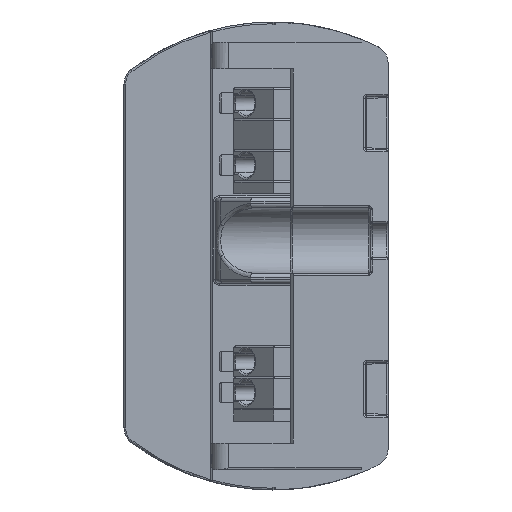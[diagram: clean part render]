
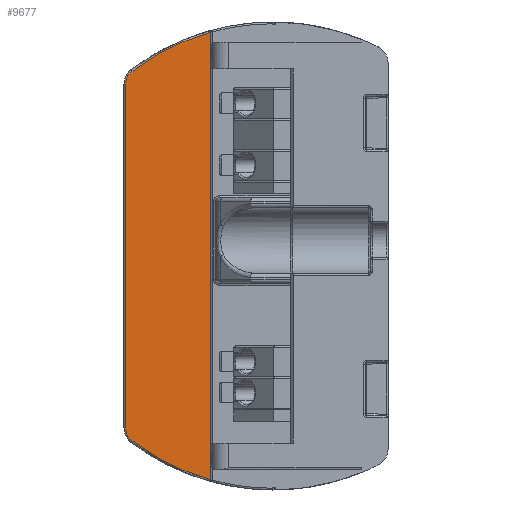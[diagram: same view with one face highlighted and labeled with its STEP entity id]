
A CAD part, left-side view. The second image highlights one B-rep face of the part: STEP entity #9677.
In plain terms, the highlighted planar face has unit normal (-1, 0, 0).
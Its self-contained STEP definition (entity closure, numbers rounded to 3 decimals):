
#1967 = ORIENTED_EDGE ( 'NONE', *, *, #9484, .T. ) ;
#1968 = ORIENTED_EDGE ( 'NONE', *, *, #9485, .T. ) ;
#1970 = ORIENTED_EDGE ( 'NONE', *, *, #9486, .T. ) ;
#1972 = ORIENTED_EDGE ( 'NONE', *, *, #9487, .T. ) ;
#1974 = ORIENTED_EDGE ( 'NONE', *, *, #9488, .T. ) ;
#1976 = ORIENTED_EDGE ( 'NONE', *, *, #9489, .T. ) ;
#2238 = EDGE_LOOP ( 'NONE', ( #1967, #1968, #1970, #1972, #1974, #1976 ) ) ;
#3083 = PLANE ( 'NONE',  #19152 ) ;
#3103 = CARTESIAN_POINT ( 'NONE',  ( -35.773, -38.452, 26.4 ) ) ;
#3104 = DIRECTION ( 'NONE',  ( 1., 0., 0. ) ) ;
#3105 = DIRECTION ( 'NONE',  ( 0., 0., -1. ) ) ;
#4269 = CARTESIAN_POINT ( 'NONE',  ( -35.773, 22.544, 26.4 ) ) ;
#4270 = DIRECTION ( 'NONE',  ( 0., 0., 1. ) ) ;
#4271 = CARTESIAN_POINT ( 'NONE',  ( -35.773, 32.144, 26.4 ) ) ;
#4272 = DIRECTION ( 'NONE',  ( 0., 0., -1. ) ) ;
#4273 = CARTESIAN_POINT ( 'NONE',  ( -35.773, 15.544, 0. ) ) ;
#4274 = DIRECTION ( 'NONE',  ( -1., 0., 0. ) ) ;
#4275 = DIRECTION ( 'NONE',  ( 0., 0., -1. ) ) ;
#4276 = CARTESIAN_POINT ( 'NONE',  ( -35.773, 30.344, 19.399 ) ) ;
#4277 = DIRECTION ( 'NONE',  ( -1., 0., 0. ) ) ;
#4278 = DIRECTION ( 'NONE',  ( 0., 0., -1. ) ) ;
#4281 = CARTESIAN_POINT ( 'NONE',  ( -35.773, 30.344, -19.399 ) ) ;
#4282 = DIRECTION ( 'NONE',  ( -1., 0., 0. ) ) ;
#4283 = DIRECTION ( 'NONE',  ( 0., 0., -1. ) ) ;
#4286 = CARTESIAN_POINT ( 'NONE',  ( -35.773, 15.544, 0. ) ) ;
#4287 = DIRECTION ( 'NONE',  ( -1., 0., 0. ) ) ;
#4288 = DIRECTION ( 'NONE',  ( 0., 0., -1. ) ) ;
#5410 = CARTESIAN_POINT ( 'NONE',  ( -35.773, 31.436, 20.83 ) ) ;
#5413 = CARTESIAN_POINT ( 'NONE',  ( -35.773, 32.144, 19.399 ) ) ;
#5415 = CARTESIAN_POINT ( 'NONE',  ( -35.773, 32.144, -19.399 ) ) ;
#5417 = CARTESIAN_POINT ( 'NONE',  ( -35.773, 31.436, -20.83 ) ) ;
#8363 = CIRCLE ( 'NONE', #18939, 26.2 ) ;
#8367 = LINE ( 'NONE', #4269, #8368 ) ;
#8368 = VECTOR ( 'NONE', #4270, 1000. ) ;
#8369 = CIRCLE ( 'NONE', #18940, 1.8 ) ;
#8370 = LINE ( 'NONE', #4271, #8372 ) ;
#8371 = CIRCLE ( 'NONE', #18941, 1.8 ) ;
#8372 = VECTOR ( 'NONE', #4272, 1000. ) ;
#8373 = CIRCLE ( 'NONE', #18942, 26.2 ) ;
#8712 = FACE_OUTER_BOUND ( 'NONE', #2238, .T. ) ;
#9484 = EDGE_CURVE ( 'NONE', #11338, #11348, #8367, .T. ) ;
#9485 = EDGE_CURVE ( 'NONE', #11348, #21311, #8363, .T. ) ;
#9486 = EDGE_CURVE ( 'NONE', #21311, #21313, #8369, .T. ) ;
#9487 = EDGE_CURVE ( 'NONE', #21313, #21314, #8370, .T. ) ;
#9488 = EDGE_CURVE ( 'NONE', #21314, #21315, #8371, .T. ) ;
#9489 = EDGE_CURVE ( 'NONE', #21315, #11338, #8373, .T. ) ;
#9677 = ADVANCED_FACE ( 'NONE', ( #8712 ), #3083, .F. ) ;
#11338 = VERTEX_POINT ( 'NONE', #24124 ) ;
#11348 = VERTEX_POINT ( 'NONE', #24130 ) ;
#18939 = AXIS2_PLACEMENT_3D ( 'NONE', #4273, #4274, #4275 ) ;
#18940 = AXIS2_PLACEMENT_3D ( 'NONE', #4276, #4277, #4278 ) ;
#18941 = AXIS2_PLACEMENT_3D ( 'NONE', #4281, #4282, #4283 ) ;
#18942 = AXIS2_PLACEMENT_3D ( 'NONE', #4286, #4287, #4288 ) ;
#19152 = AXIS2_PLACEMENT_3D ( 'NONE', #3103, #3104, #3105 ) ;
#21311 = VERTEX_POINT ( 'NONE', #5410 ) ;
#21313 = VERTEX_POINT ( 'NONE', #5413 ) ;
#21314 = VERTEX_POINT ( 'NONE', #5415 ) ;
#21315 = VERTEX_POINT ( 'NONE', #5417 ) ;
#24124 = CARTESIAN_POINT ( 'NONE',  ( -35.773, 22.544, -25.248 ) ) ;
#24130 = CARTESIAN_POINT ( 'NONE',  ( -35.773, 22.544, 25.248 ) ) ;
